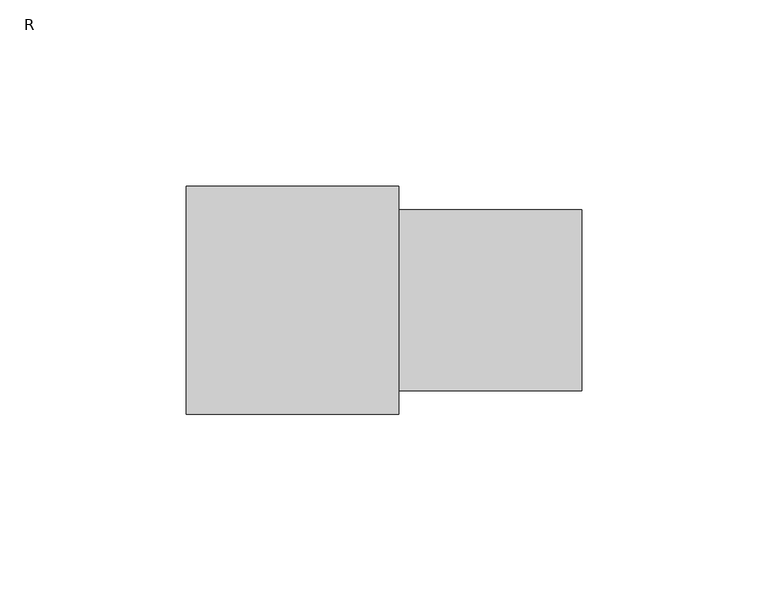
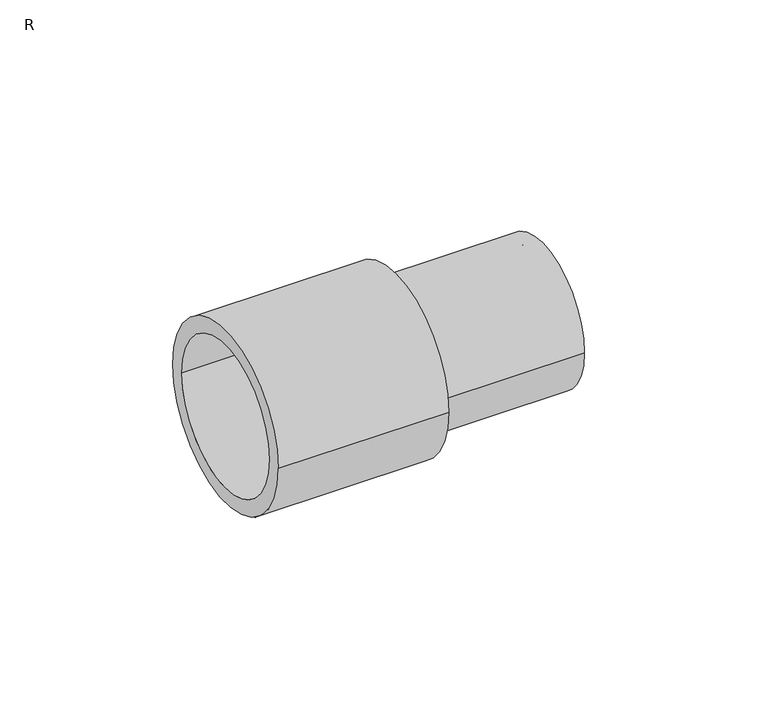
"""IFC4 building model written with IfcOpenShell, lengths in millimetres: pipe fitting geometry, FUSAPEX reducer for T-Piece : R."""

from ifc_helpers import new_model, si_unit, frame, origin, place, context, project, spatial, polyline, circle_curve, source, transform, mapped, element, save
from ifc_brep_helpers import plane_surface, cylinder_surface, revolved_surface, advanced_brep


def r_0a45e2a9(model_context):
    return source(origin(), model_context, "Body", "AdvancedBrep", [
        advanced_brep(
        [(-57.0, 25.25, 0.0), (-57.0, -25.25, 0.0), (-11.2, -25.25, 0.0), (-11.2, 25.25, 0.0), (0.0, 30.55, 0.0), (0.0, -30.55, 0.0), (-57.0, -30.55, 0.0), (-57.0, 30.55, 0.0), (49.0, 24.25, 0.0), (49.0, -24.25, 0.0), (0.0, -24.25, 0.0), (0.0, 24.25, 0.0), (-11.2, 20.0, 0.0), (-11.2, -20.0, 0.0), (49.0, -20.0, 0.0), (49.0, 20.0, 0.0)],
        [
            (0, 1, circle_curve(frame((-57.0, 0.0, 0.0), z_axis=(-1.0, 0.0, 0.0), x_axis=(0.0, -1.0, 0.0)), 25.25)),
            (1, 2),
            (2, 3, circle_curve(frame((-11.2, 0.0, 0.0), z_axis=(1.0, 0.0, 0.0), x_axis=(0.0, -1.0, 0.0)), 25.25)),
            (3, 0),
            (4, 5, circle_curve(frame((0.0, 0.0, 0.0), z_axis=(-1.0, 0.0, 0.0), x_axis=(0.0, -1.0, 0.0)), 30.55)),
            (5, 6),
            (6, 7, circle_curve(frame((-57.0, 0.0, 0.0), z_axis=(1.0, 0.0, 0.0), x_axis=(0.0, -1.0, 0.0)), 30.55)),
            (7, 4),
            (8, 9, circle_curve(frame((49.0, 0.0, 0.0), z_axis=(-1.0, 0.0, 0.0), x_axis=(0.0, -1.0, 0.0)), 24.25)),
            (9, 10),
            (10, 11, circle_curve(frame((0.0, 0.0, 0.0), z_axis=(1.0, 0.0, 0.0), x_axis=(0.0, -1.0, 0.0)), 24.25)),
            (11, 8),
            (12, 13, circle_curve(frame((-11.2, 0.0, 0.0), z_axis=(-1.0, 0.0, 0.0), x_axis=(0.0, -1.0, 0.0)), 20.0)),
            (13, 14),
            (14, 15, circle_curve(frame((49.0, 0.0, 0.0), z_axis=(1.0, 0.0, 0.0), x_axis=(0.0, -1.0, 0.0)), 20.0)),
            (15, 12),
            (1, 0, circle_curve(frame((-57.0, 0.0, 0.0), z_axis=(-1.0, 0.0, 0.0), x_axis=(0.0, 1.0, 0.0)), 25.25)),
            (3, 2, circle_curve(frame((-11.2, 0.0, 0.0), z_axis=(1.0, 0.0, 0.0), x_axis=(0.0, 1.0, 0.0)), 25.25)),
            (6, 7, circle_curve(frame((-57.0, 0.0, 0.0), z_axis=(-1.0, 0.0, 0.0), x_axis=(0.0, 1.0, 0.0)), 30.55)),
            (5, 4, circle_curve(frame((0.0, 0.0, 0.0), z_axis=(-1.0, 0.0, 0.0), x_axis=(0.0, 1.0, 0.0)), 30.55)),
            (10, 11, circle_curve(frame((0.0, 0.0, 0.0), z_axis=(-1.0, 0.0, 0.0), x_axis=(0.0, 1.0, 0.0)), 24.25)),
            (9, 8, circle_curve(frame((49.0, 0.0, 0.0), z_axis=(-1.0, 0.0, 0.0), x_axis=(0.0, 1.0, 0.0)), 24.25)),
            (14, 15, circle_curve(frame((49.0, 0.0, 0.0), z_axis=(-1.0, 0.0, 0.0), x_axis=(0.0, 1.0, 0.0)), 20.0)),
            (13, 12, circle_curve(frame((-11.2, 0.0, 0.0), z_axis=(-1.0, 0.0, 0.0), x_axis=(0.0, 1.0, 0.0)), 20.0)),
        ],
        [
            revolved_surface(polyline([(-11.2, -25.25, 0.0), (-57.0, -25.25, 0.0)]), (0.0, 0.0, 0.0), (1.0, 0.0, 0.0)),
            cylinder_surface(frame((0.0, 0.0, 0.0), z_axis=(1.0, 0.0, 0.0), x_axis=(0.0, -1.0, 0.0)), 30.55),
            cylinder_surface(frame((0.0, 0.0, 0.0), z_axis=(1.0, 0.0, 0.0), x_axis=(0.0, -1.0, 0.0)), 24.25),
            revolved_surface(polyline([(49.0, -20.0, 0.0), (-11.2, -20.0, 0.0)]), (0.0, 0.0, 0.0), (1.0, 0.0, 0.0)),
            revolved_surface(polyline([(-11.2, 25.25, 0.0), (-57.0, 25.25, 0.0)]), (0.0, 0.0, 0.0), (1.0, 0.0, 0.0)),
            plane_surface(frame((-57.0, 0.0, 0.0), z_axis=(-1.0, 0.0, 0.0), x_axis=(0.0, 1.0, 0.0))),
            cylinder_surface(frame((0.0, 0.0, 0.0), z_axis=(1.0, 0.0, 0.0), x_axis=(0.0, 1.0, 0.0)), 30.55),
            plane_surface(frame((0.0, 0.0, 0.0), z_axis=(1.0, 0.0, 0.0), x_axis=(0.0, 1.0, 0.0))),
            cylinder_surface(frame((0.0, 0.0, 0.0), z_axis=(1.0, 0.0, 0.0), x_axis=(0.0, 1.0, 0.0)), 24.25),
            plane_surface(frame((49.0, 0.0, 0.0), z_axis=(1.0, 0.0, 0.0), x_axis=(0.0, 1.0, 0.0))),
            revolved_surface(polyline([(49.0, 20.0, 0.0), (-11.2, 20.0, 0.0)]), (0.0, 0.0, 0.0), (1.0, 0.0, 0.0)),
            plane_surface(frame((-11.2, 0.0, 0.0), z_axis=(-1.0, 0.0, 0.0), x_axis=(0.0, 1.0, 0.0))),
        ],
        [
            (0, [[1, 2, 3, 4]]),
            (1, [[5, 6, 7, 8]]),
            (2, [[9, 10, 11, 12]]),
            (3, [[13, 14, 15, 16]]),
            (4, [[17, -4, 18, -2]]),
            (5, [[19, -7], [-17, -1]]),
            (6, [[20, -8, -19, -6]]),
            (7, [[-20, -5], [21, -11]]),
            (8, [[22, -12, -21, -10]]),
            (9, [[-22, -9], [23, -15]]),
            (10, [[24, -16, -23, -14]]),
            (11, [[-18, -3], [-24, -13]]),
        ],
    ),
    ])


if __name__ == "__main__":
    model = new_model("IFC4")
    model_context = context("Model", 3, world=origin())
    ifc_project = project(units=[si_unit("LENGTHUNIT", "METRE", prefix="MILLI")], contexts=[model_context])
    site = spatial("IfcSite", under=ifc_project)
    building = spatial("IfcBuilding", under=site)
    placement = place(None, origin())
    r_shape = r_0a45e2a9(model_context)
    element("IfcPipeFitting", 1, ObjectType="FUSAPEX reducer for T-Piece : R", at=placement, inside=building, context=model_context, shape_type="MappedRepresentation", body=[
        mapped(r_shape, transform((0.0, 0.0, 0.0), x_axis=(1.0, 0.0, 0.0), y_axis=(0.0, 1.0, 0.0), z_axis=(0.0, 0.0, 1.0))),
    ])
    save(model, "model.ifc")
